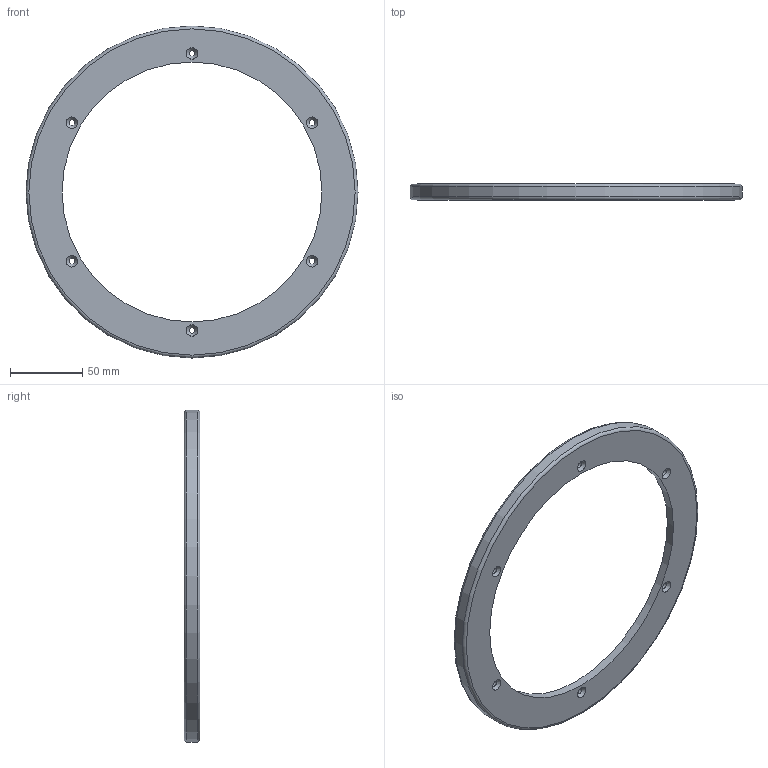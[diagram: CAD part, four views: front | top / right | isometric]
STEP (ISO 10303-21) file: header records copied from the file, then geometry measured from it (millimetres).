
FILE_DESCRIPTION( ( 'Unknown' ), '1' );
FILE_NAME( 'F:/navkite transat/construction/2016/3D ET ASSEMBLAGES/self tailing/WI 03.stp', 'Unknown', ( 'GMA' ), ( 'Unknown' ), 'XStep 1.0', 'Unknown', ' ' );
FILE_SCHEMA( ( 'automotive_design' ) );
Length unit declared in the file: millimetre
Products named in the file (1): 1
Bounding box: 230 x 11 x 230 mm (x, y, z)
Volume: 112322.2 mm3; surface area: 44817.8 mm2
Topology: 1 solids, 1 shells, 22 faces, 48 edges, 29 vertices
Faces by surface type: cylinder 9, cone 6, torus 4, plane 3
Full cylindrical faces by diameter (mm): 4.2 x6, 180 x1, 220 x1, 230 x1
Entity records: 724 total; most frequent: DIRECTION 102, CARTESIAN_POINT 79, EDGE_LOOP 56, ORIENTED_EDGE 56, AXIS2_PLACEMENT_3D 51, FACE_OUTER_BOUND 35, EDGE_CURVE 28, VERTEX_POINT 28
